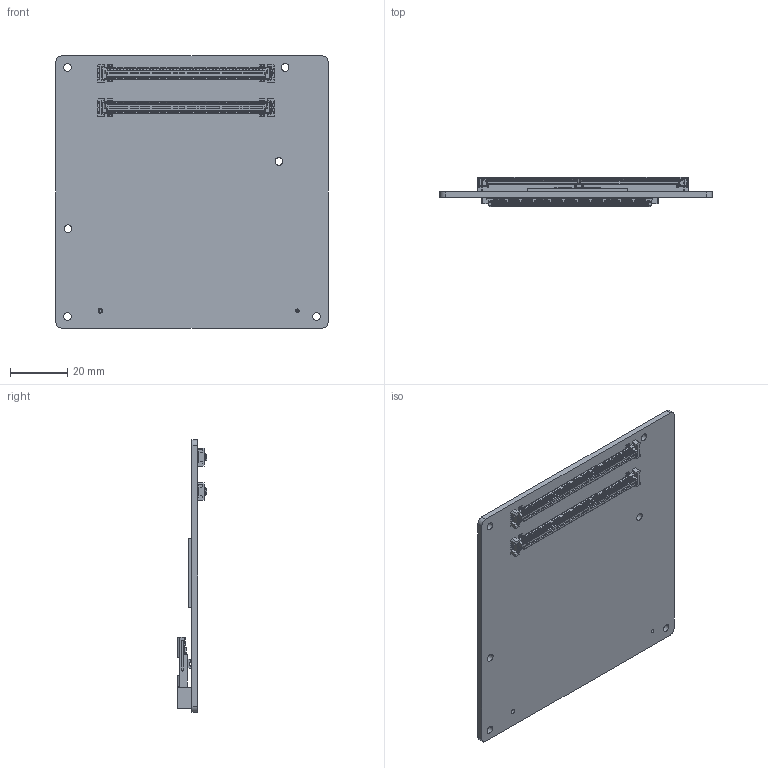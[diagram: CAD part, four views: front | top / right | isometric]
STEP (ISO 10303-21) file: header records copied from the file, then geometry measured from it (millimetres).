
FILE_DESCRIPTION((''),'2;1');
FILE_NAME('3D_BOARD_ESM-TWLC_ASM','2025-06-17T16:27:02',('arvin_tsai'),(''),'CREO PARAMETRIC BY PTC INC, 2024063','CREO PARAMETRIC BY PTC INC, 2024063','');
FILE_SCHEMA(('CONFIG_CONTROL_DESIGN'));
Products named in the file (6): ESM-ASLC-PCB_5; E16A38D1409H_2; E16712B0201H_1; E14S4009700H-1_1; 0_ESM-ASLC_ASM_25_ASM; 3D_BOARD_ESM-TWLC_ASM
Assembly tree (6 placements, depth 3):
  3D_BOARD_ESM-TWLC_ASM
    0_ESM-ASLC_ASM_25_ASM
      ESM-ASLC-PCB_5
      E16A38D1409H_2
      E16712B0201H_1  x2
      E14S4009700H-1_1
Bounding box: 95 x 10.4 x 95 mm (x, y, z)
Volume: 21814.1 mm3; surface area: 26070.8 mm2
Topology: 5 solids, 7 shells, 8523 faces, 22869 edges, 14909 vertices
Faces by surface type: plane 7909, cylinder 525, extrusion 44, torus 20, cone 13, bspline 12
Entity records: 150439 total; most frequent: CARTESIAN_POINT 29157, ORIENTED_EDGE 25944, DIRECTION 23228, EDGE_CURVE 12972, VECTOR 11880, LINE 11836, VERTEX_POINT 8463, AXIS2_PLACEMENT_3D 5674
